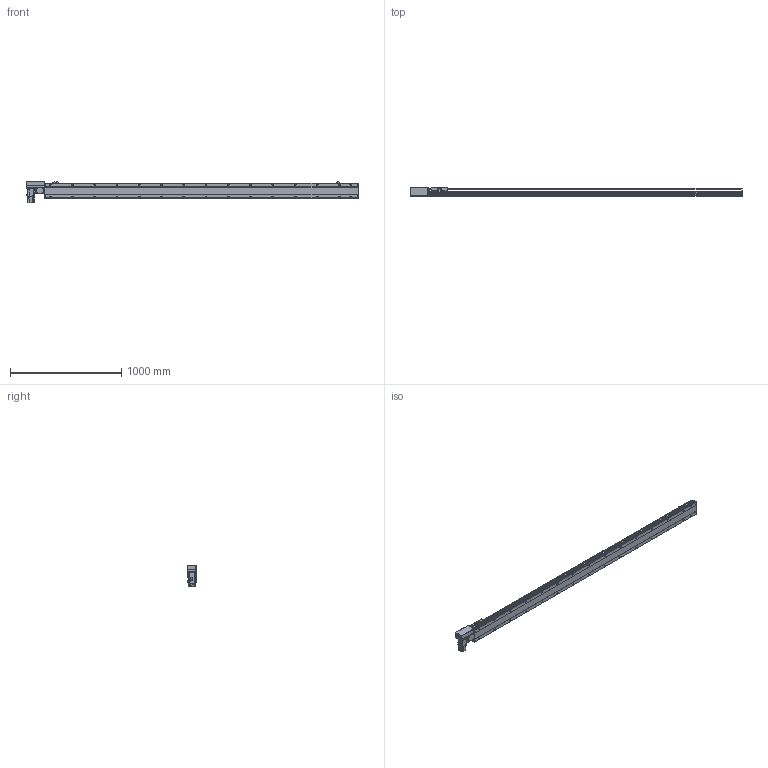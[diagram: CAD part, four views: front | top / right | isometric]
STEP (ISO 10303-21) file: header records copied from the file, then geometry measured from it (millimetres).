
FILE_DESCRIPTION(/* description */ ('STEP AP214'),/* implementation_level */ '2;1');
FILE_NAME(/* name */ 'PBS140-P40-S2550-R-T40-C1-N(0)',/* time_stamp */ '2022-06-06T03:31:26+02:00',/* author */ ('License CC BY-ND 4.0'),/* organization */ ('CADENAS'),/* preprocessor_version */ 'ST-DEVELOPER v18.102',/* originating_system */ 'PARTsolutions',/* authorisation */ ' ');
FILE_SCHEMA (('AUTOMOTIVE_DESIGN {1 0 10303 214 3 1 1}'));
Length unit declared in the file: millimetre
Products named in the file (7): PBS140-P40-S2550-R-T40-C1-N(0); PBS140_sensor; PBS140_plant; PBS140_sliser; T40-p1; PBS140T-R_motors; PBS140-S2550()_body
Assembly tree (8 placements, depth 2):
  PBS140-P40-S2550-R-T40-C1-N(0)
    PBS140_sensor  x3
    PBS140_plant
    PBS140_sliser
    T40-p1
    PBS140T-R_motors
    PBS140-S2550()_body
Bounding box: 2983 x 80.5 x 189.7 mm (x, y, z)
Volume: 13009466.3 mm3; surface area: 2214968.8 mm2
Topology: 8 solids, 8 shells, 1187 faces, 3116 edges, 2035 vertices
Faces by surface type: plane 734, cylinder 387, cone 56, sphere 8, torus 2
Full cylindrical faces by diameter (mm): 3.242 x4, 4 x2, 4.134 x4, 4.4 x8, 4.5 x2, 4.8 x4, 4.917 x38, 5.5 x7, 6 x2, 7 x32, 7.5 x8, 8 x12, 8.5 x4, 10.5 x30, 14 x1, 30 x2, 50 x2
Entity records: 33851 total; most frequent: CARTESIAN_POINT 6449, DIRECTION 5687, ORIENTED_EDGE 5332, EDGE_CURVE 2666, AXIS2_PLACEMENT_3D 2017, VERTEX_POINT 1869, LINE 1653, VECTOR 1653
